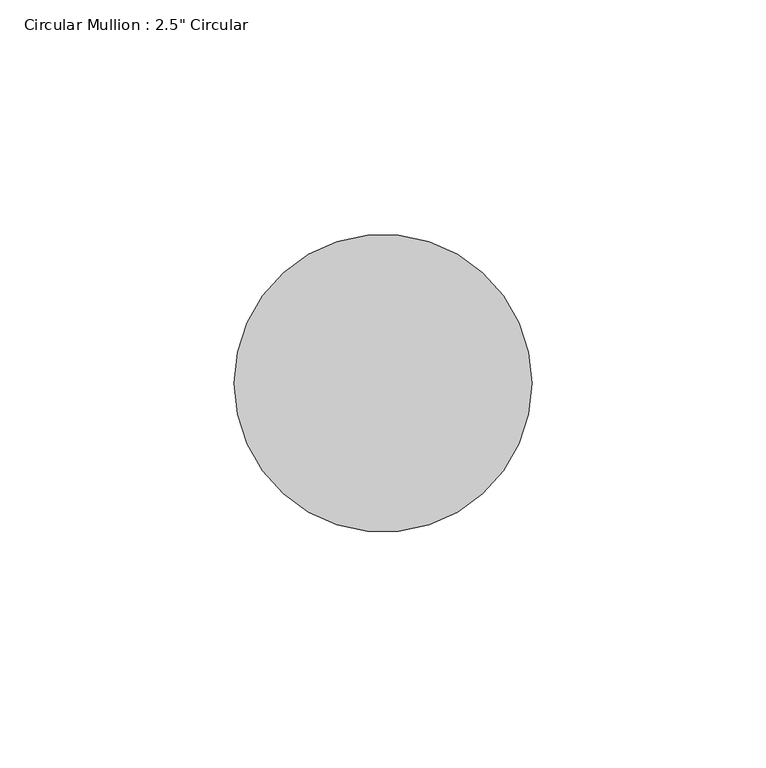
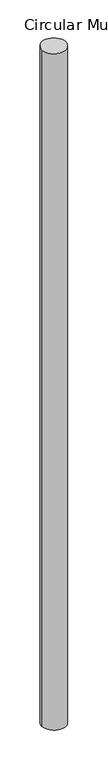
"""IFC4 building model written with IfcOpenShell, lengths in millimetres: member geometry."""

from ifc_helpers import new_model, si_unit, point, frame, frame_2d, origin, place, context, project, spatial, circle_curve, trimmed, segment, composite_curve, outline, extrude, source, transform, mapped, element, save


def member_341614aa(model_context):
    return source(origin(), model_context, "Body", "SweptSolid", [
        extrude(outline(composite_curve([segment(trimmed(circle_curve(frame_2d((-31.75, 0.0)), 31.75), [point((0.0, 0.0))], [point((-63.5, 0.0))], False, "CARTESIAN"), True, "CONTINUOUS"), segment(trimmed(circle_curve(frame_2d((-31.75, 0.0)), 31.75), [point((-63.5, 0.0))], [point((0.0, 0.0))], False, "CARTESIAN"), True, "CONTINUOUS")], self_intersect=False)), frame((0.0, 0.0, -1875.3135709), z_axis=(0.0, 0.0, 1.0), x_axis=(1.0, 0.0, 0.0)), (0.0, 0.0, 1.0), 1875.3135709),
    ])


if __name__ == "__main__":
    model = new_model("IFC4")
    model_context = context("Model", 3, world=origin())
    ifc_project = project(units=[si_unit("LENGTHUNIT", "METRE", prefix="MILLI")], contexts=[model_context])
    site = spatial("IfcSite", under=ifc_project)
    building = spatial("IfcBuilding", under=site)
    placement = place(None, origin())
    member_shape = member_341614aa(model_context)
    element("IfcMember", 1, ObjectType="Circular Mullion : 2.5\" Circular", at=placement, inside=building, context=model_context, shape_type="MappedRepresentation", body=[
        mapped(member_shape, transform((0.0, 0.0, 0.0), x_axis=(1.0, 0.0, 0.0), y_axis=(0.0, 1.0, 0.0), z_axis=(0.0, 0.0, 1.0))),
    ])
    save(model, "model.ifc")
